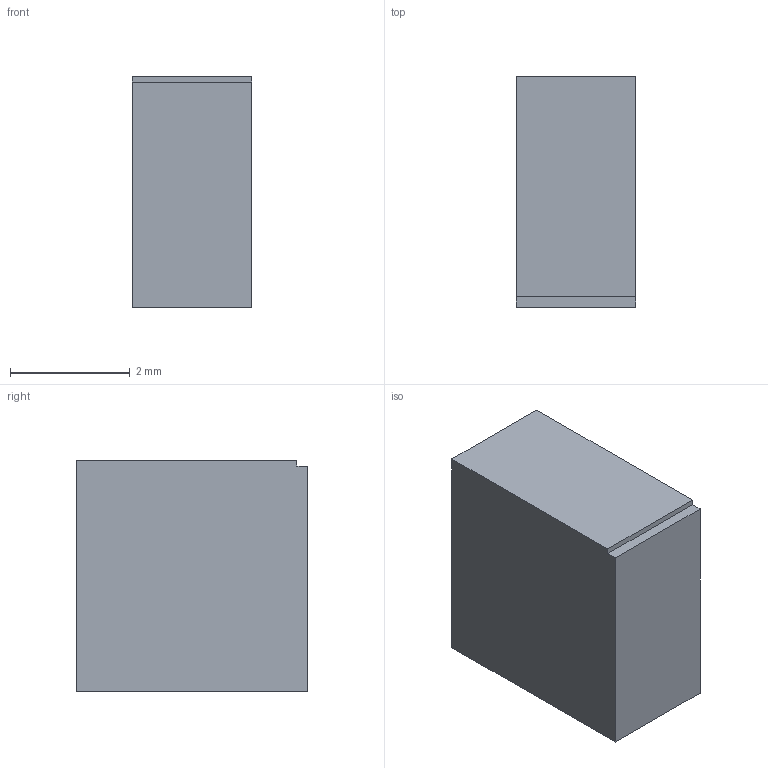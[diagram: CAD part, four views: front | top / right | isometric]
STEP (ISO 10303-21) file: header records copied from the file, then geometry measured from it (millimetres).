
FILE_DESCRIPTION(/* description */ ('STEP AP242 Edition 2','CAx-IF Rec.Pracs.---Representation and Presentation of Product Manufacturing Information (PMI)---4.0---2014-10-13','CAx-IF Rec.Pracs.---3D Tessellated Geometry---0.4---2014-09-14','2;1','CAx-IF Rec.Pracs.---User Defined Attributes---1.5---2016-08-15'),/* implementation_level */ '2;1');
FILE_NAME(/* name */ 'LCD_TFT_1.8_SPI_ST7735 - Part 4',/* time_stamp */ '2026-04-28T02:34:33Z',/* author */ (''),/* organization */ (''),/* preprocessor_version */ 'ST-DEVELOPER v20',/* originating_system */ 'ONSHAPE BY PTC INC, 1.214',/* authorisation */ ' ');
FILE_SCHEMA (('AP242_MANAGED_MODEL_BASED_3D_ENGINEERING_MIM_LF { 1 0 10303 442 3 1 4 }'));
Length unit declared in the file: metre
Products named in the file (1): Part 4
Bounding box: 2 x 3.85 x 3.85 mm (x, y, z)
Volume: 29.7 mm3; surface area: 60.5 mm2
Topology: 1 solids, 1 shells, 8 faces, 18 edges, 12 vertices
Faces by surface type: plane 8
Entity records: 244 total; most frequent: CARTESIAN_POINT 39, ORIENTED_EDGE 36, DIRECTION 36, EDGE_CURVE 18, LINE 18, VECTOR 18, VERTEX_POINT 12, AXIS2_PLACEMENT_3D 9
